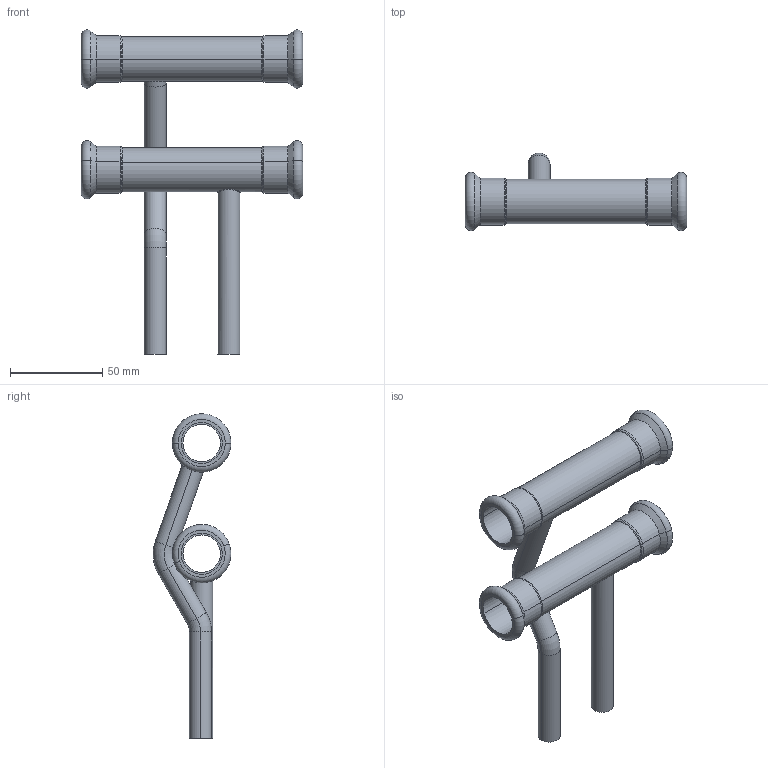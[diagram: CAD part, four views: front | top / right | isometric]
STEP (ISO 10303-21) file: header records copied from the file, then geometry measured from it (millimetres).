
FILE_DESCRIPTION(('CoCreate Modeling STEP Export'),'2;1');
FILE_NAME('C1437 22x12.stp','2015-08-13T 9:27:03',(''),(''),'CoCreate Modeling STEP processor for AP214 (Solid Model)','CoCreate Modeling 17.00A 17-Jun-2010 (C) Parametric Technology GmbH','');
FILE_SCHEMA(('AUTOMOTIVE_DESIGN { 1 0 10303 214 1 1 1 1 }'));
Length unit declared in the file: millimetre
Products named in the file (4): 620868.6.1.2; 620858.7.1.1.1; 620868.6.1.1.1; C1437-22x12
Assembly tree (3 placements, depth 2):
  C1437-22x12
    620868.6.1.1.1
    620858.7.1.1.1
    620868.6.1.2
Bounding box: 120 x 42.18 x 175.85 mm (x, y, z)
Volume: 44305.9 mm3; surface area: 53071.7 mm2
Topology: 3 solids, 3 shells, 112 faces, 234 edges, 138 vertices
Faces by surface type: cylinder 52, torus 24, plane 16, cone 16, bspline 4
Entity records: 6333 total; most frequent: CARTESIAN_POINT 4184, ORIENTED_EDGE 468, DIRECTION 376, EDGE_CURVE 234, AXIS2_PLACEMENT_3D 154, VERTEX_POINT 138, EDGE_LOOP 132, FACE_OUTER_BOUND 112
